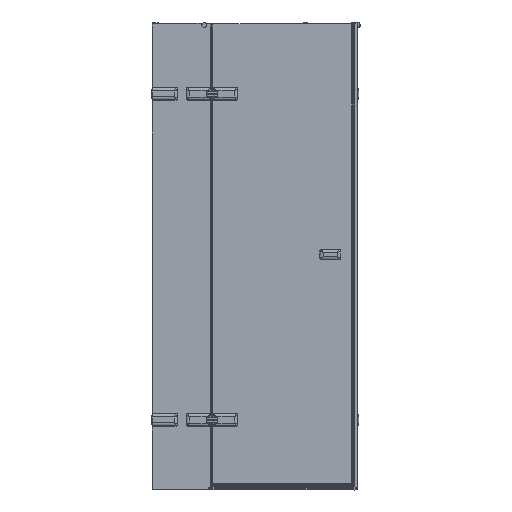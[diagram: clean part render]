
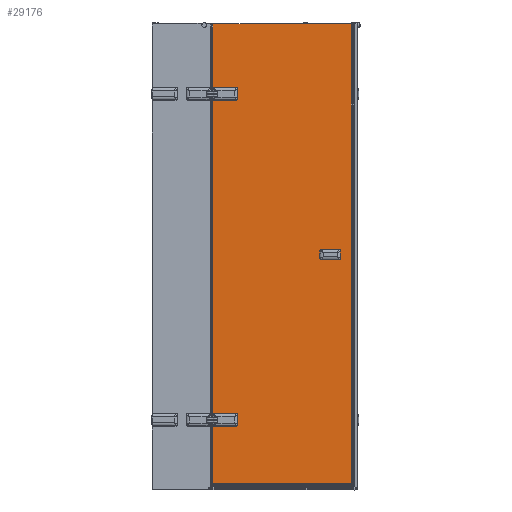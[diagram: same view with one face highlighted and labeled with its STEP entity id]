
A CAD part, front view. The second image highlights one B-rep face of the part: STEP entity #29176.
In plain terms, the highlighted planar face has unit normal (0, -1, 0).
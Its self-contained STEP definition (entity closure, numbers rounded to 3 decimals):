
#1223=PLANE($,#31649);
#1762=LINE($,#41598,#4263);
#2248=LINE($,#57710,#4749);
#2252=LINE($,#57722,#4753);
#2256=LINE($,#57733,#4757);
#2703=LINE($,#60174,#5204);
#2707=LINE($,#60186,#5208);
#2711=LINE($,#60197,#5212);
#3641=LINE($,#67158,#6142);
#3686=LINE($,#67258,#6187);
#3743=LINE($,#67590,#6244);
#3914=LINE($,#68088,#6415);
#3923=LINE($,#68111,#6424);
#4263=VECTOR($,#32440,598.747);
#4749=VECTOR($,#34016,96.);
#4753=VECTOR($,#34028,42.);
#4757=VECTOR($,#34040,96.);
#5204=VECTOR($,#35341,96.);
#5208=VECTOR($,#35353,42.);
#5212=VECTOR($,#35365,96.);
#6142=VECTOR($,#37951,277.43);
#6187=VECTOR($,#38070,1354.861);
#6244=VECTOR($,#38249,252.83);
#6415=VECTOR($,#38828,598.747);
#6424=VECTOR($,#38861,1975.4);
#8413=FACE_OUTER_BOUND($,#10169,.T.);
#10169=EDGE_LOOP($,(#25519,#25520,#25521,#25522,#25523,#25524,#25525,#25526,
#25527,#25528,#25529,#25530,#25531,#25532,#25533,#25534,#25535,#25536,#25537,
#25538));
#11050=CIRCLE($,#29984,5.);
#11053=CIRCLE($,#29988,5.);
#11092=CIRCLE($,#30066,5.);
#11094=CIRCLE($,#30070,5.);
#11218=CIRCLE($,#30419,5.);
#11221=CIRCLE($,#30423,5.);
#11260=CIRCLE($,#30501,5.);
#11262=CIRCLE($,#30505,5.);
#11920=VERTEX_POINT($,#41595);
#11921=VERTEX_POINT($,#41597);
#12496=VERTEX_POINT($,#57360);
#12497=VERTEX_POINT($,#57371);
#12500=VERTEX_POINT($,#57378);
#12503=VERTEX_POINT($,#57393);
#12614=VERTEX_POINT($,#57709);
#12616=VERTEX_POINT($,#57715);
#12618=VERTEX_POINT($,#57721);
#12620=VERTEX_POINT($,#57727);
#12942=VERTEX_POINT($,#59826);
#12943=VERTEX_POINT($,#59837);
#12946=VERTEX_POINT($,#59844);
#12949=VERTEX_POINT($,#59859);
#13059=VERTEX_POINT($,#60173);
#13061=VERTEX_POINT($,#60179);
#13063=VERTEX_POINT($,#60185);
#13065=VERTEX_POINT($,#60191);
#13980=VERTEX_POINT($,#67576);
#14053=VERTEX_POINT($,#68086);
#14529=EDGE_CURVE($,#11920,#11921,#1762,.T.);
#15307=EDGE_CURVE($,#12497,#12496,#11050,.T.);
#15314=EDGE_CURVE($,#12500,#12503,#11053,.T.);
#15472=EDGE_CURVE($,#12503,#12614,#2248,.T.);
#15475=EDGE_CURVE($,#12614,#12616,#11092,.T.);
#15478=EDGE_CURVE($,#12616,#12618,#2252,.T.);
#15481=EDGE_CURVE($,#12618,#12620,#11094,.T.);
#15484=EDGE_CURVE($,#12620,#12497,#2256,.T.);
#16004=EDGE_CURVE($,#12943,#12942,#11218,.T.);
#16011=EDGE_CURVE($,#12946,#12949,#11221,.T.);
#16168=EDGE_CURVE($,#12949,#13059,#2703,.T.);
#16171=EDGE_CURVE($,#13059,#13061,#11260,.T.);
#16174=EDGE_CURVE($,#13061,#13063,#2707,.T.);
#16177=EDGE_CURVE($,#13063,#13065,#11262,.T.);
#16180=EDGE_CURVE($,#13065,#12943,#2711,.T.);
#17550=EDGE_CURVE($,#11920,#12946,#3641,.T.);
#17602=EDGE_CURVE($,#12942,#12500,#3686,.T.);
#17693=EDGE_CURVE($,#12496,#13980,#3743,.T.);
#17906=EDGE_CURVE($,#13980,#14053,#3914,.T.);
#17918=EDGE_CURVE($,#14053,#11921,#3923,.T.);
#25519=ORIENTED_EDGE($,*,*,#15307,.T.);
#25520=ORIENTED_EDGE($,*,*,#17693,.T.);
#25521=ORIENTED_EDGE($,*,*,#17906,.T.);
#25522=ORIENTED_EDGE($,*,*,#17918,.T.);
#25523=ORIENTED_EDGE($,*,*,#14529,.F.);
#25524=ORIENTED_EDGE($,*,*,#17550,.T.);
#25525=ORIENTED_EDGE($,*,*,#16011,.T.);
#25526=ORIENTED_EDGE($,*,*,#16168,.T.);
#25527=ORIENTED_EDGE($,*,*,#16171,.T.);
#25528=ORIENTED_EDGE($,*,*,#16174,.T.);
#25529=ORIENTED_EDGE($,*,*,#16177,.T.);
#25530=ORIENTED_EDGE($,*,*,#16180,.T.);
#25531=ORIENTED_EDGE($,*,*,#16004,.T.);
#25532=ORIENTED_EDGE($,*,*,#17602,.T.);
#25533=ORIENTED_EDGE($,*,*,#15314,.T.);
#25534=ORIENTED_EDGE($,*,*,#15472,.T.);
#25535=ORIENTED_EDGE($,*,*,#15475,.T.);
#25536=ORIENTED_EDGE($,*,*,#15478,.T.);
#25537=ORIENTED_EDGE($,*,*,#15481,.T.);
#25538=ORIENTED_EDGE($,*,*,#15484,.T.);
#29176=ADVANCED_FACE($,(#8413),#1223,.T.);
#29984=AXIS2_PLACEMENT_3D($,#57372,#33736,#33737);
#29988=AXIS2_PLACEMENT_3D($,#57395,#33747,#33748);
#30066=AXIS2_PLACEMENT_3D($,#57716,#34021,#34022);
#30070=AXIS2_PLACEMENT_3D($,#57728,#34033,#34034);
#30419=AXIS2_PLACEMENT_3D($,#59838,#35062,#35063);
#30423=AXIS2_PLACEMENT_3D($,#59861,#35073,#35074);
#30501=AXIS2_PLACEMENT_3D($,#60180,#35346,#35347);
#30505=AXIS2_PLACEMENT_3D($,#60192,#35358,#35359);
#31649=AXIS2_PLACEMENT_3D($,#68110,#38859,#38860);
#32440=DIRECTION($,(1.,0.,0.));
#33736=DIRECTION('center_axis',(0.,1.,0.));
#33737=DIRECTION('ref_axis',(1.,0.,0.));
#33747=DIRECTION('center_axis',(0.,1.,0.));
#33748=DIRECTION('ref_axis',(0.,0.,
-1.));
#34016=DIRECTION($,(1.,0.,0.));
#34021=DIRECTION('center_axis',(0.,1.,0.));
#34022=DIRECTION('ref_axis',(-1.,0.,0.));
#34028=DIRECTION($,(0.,0.,-1.));
#34033=DIRECTION('center_axis',(0.,1.,0.));
#34034=DIRECTION('ref_axis',(0.,0.,
1.));
#34040=DIRECTION($,(-1.,0.,0.));
#35062=DIRECTION('center_axis',(0.,1.,0.));
#35063=DIRECTION('ref_axis',(1.,0.,0.));
#35073=DIRECTION('center_axis',(0.,1.,0.));
#35074=DIRECTION('ref_axis',(0.,0.,
-1.));
#35341=DIRECTION($,(1.,0.,0.));
#35346=DIRECTION('center_axis',(0.,1.,0.));
#35347=DIRECTION('ref_axis',(-1.,0.,0.));
#35353=DIRECTION($,(0.,0.,-1.));
#35358=DIRECTION('center_axis',(0.,1.,0.));
#35359=DIRECTION('ref_axis',(0.,0.,
1.));
#35365=DIRECTION($,(-1.,0.,0.));
#37951=DIRECTION($,(0.,0.,-1.));
#38070=DIRECTION($,(0.,0.,-1.));
#38249=DIRECTION($,(0.,0.,-1.));
#38828=DIRECTION($,(1.,0.,0.));
#38859=DIRECTION('center_axis',(0.,-1.,0.));
#38860=DIRECTION('ref_axis',(1.,0.,0.));
#38861=DIRECTION($,(0.,0.,1.));
#41595=CARTESIAN_POINT('',(627.272,-34.044,1485.944));
#41597=CARTESIAN_POINT('',(1226.019,-34.044,1485.944));
#41598=CARTESIAN_POINT($,(626.019,-34.044,1485.944));
#57360=CARTESIAN_POINT('',(627.272,-34.044,-236.625));
#57371=CARTESIAN_POINT('',(632.019,-34.044,-240.056));
#57372=CARTESIAN_POINT('Origin',(632.019,-34.044,-235.056));
#57378=CARTESIAN_POINT('',(627.272,-34.044,-191.486));
#57393=CARTESIAN_POINT('',(632.019,-34.044,-188.056));
#57395=CARTESIAN_POINT('Origin',(632.019,-34.044,-193.056));
#57709=CARTESIAN_POINT('',(728.019,-34.044,-188.056));
#57710=CARTESIAN_POINT($,(677.019,-34.044,-188.056));
#57715=CARTESIAN_POINT('',(733.019,-34.044,-193.056));
#57716=CARTESIAN_POINT('Origin',(728.019,-34.044,-193.056));
#57721=CARTESIAN_POINT('',(733.019,-34.044,-235.056));
#57722=CARTESIAN_POINT($,(733.019,-34.044,-364.556));
#57727=CARTESIAN_POINT('',(728.019,-34.044,-240.056));
#57728=CARTESIAN_POINT('Origin',(728.019,-34.044,-235.056));
#57733=CARTESIAN_POINT($,(629.019,-34.044,-240.056));
#59826=CARTESIAN_POINT('',(627.272,-34.044,1163.375));
#59837=CARTESIAN_POINT('',(632.019,-34.044,1159.944));
#59838=CARTESIAN_POINT('Origin',(632.019,-34.044,1164.944));
#59844=CARTESIAN_POINT('',(627.272,-34.044,1208.514));
#59859=CARTESIAN_POINT('',(632.019,-34.044,1211.944));
#59861=CARTESIAN_POINT('Origin',(632.019,-34.044,1206.944));
#60173=CARTESIAN_POINT('',(728.019,-34.044,1211.944));
#60174=CARTESIAN_POINT($,(677.019,-34.044,1211.944));
#60179=CARTESIAN_POINT('',(733.019,-34.044,1206.944));
#60180=CARTESIAN_POINT('Origin',(728.019,-34.044,1206.944));
#60185=CARTESIAN_POINT('',(733.019,-34.044,1164.944));
#60186=CARTESIAN_POINT($,(733.019,-34.044,335.444));
#60191=CARTESIAN_POINT('',(728.019,-34.044,1159.944));
#60192=CARTESIAN_POINT('Origin',(728.019,-34.044,1164.944));
#60197=CARTESIAN_POINT($,(629.019,-34.044,1159.944));
#67158=CARTESIAN_POINT($,(627.272,-34.044,1195.944));
#67258=CARTESIAN_POINT($,(627.272,-34.044,-204.056));
#67576=CARTESIAN_POINT('',(627.272,-34.044,-489.456));
#67590=CARTESIAN_POINT($,(627.272,-34.044,-224.056));
#68086=CARTESIAN_POINT('',(1226.019,-34.044,-489.456));
#68088=CARTESIAN_POINT($,(626.019,-34.044,-489.456));
#68110=CARTESIAN_POINT('Origin',(626.019,-34.044,-494.056));
#68111=CARTESIAN_POINT($,(1226.019,-34.044,-494.056));
